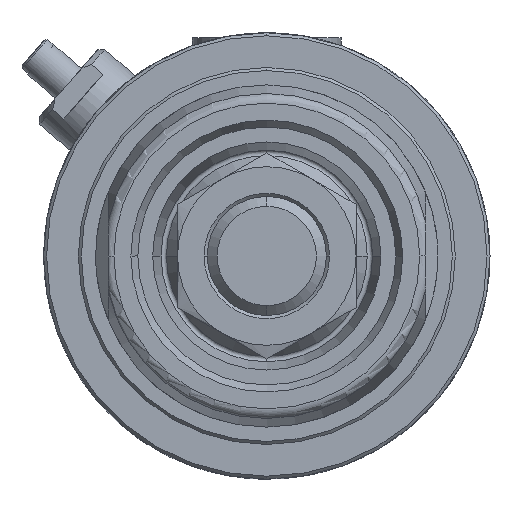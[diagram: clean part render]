
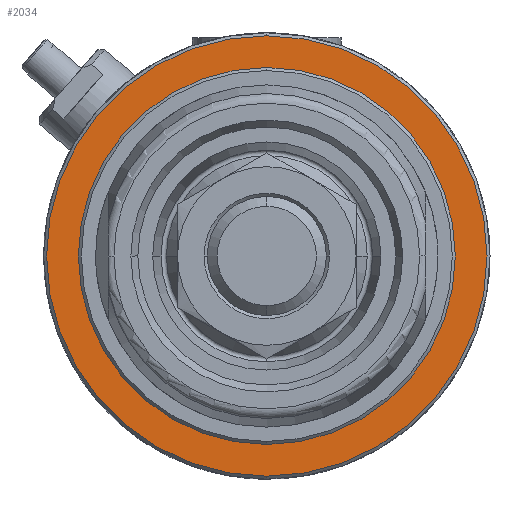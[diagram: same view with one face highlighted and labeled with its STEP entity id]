
A CAD part, front view. The second image highlights one B-rep face of the part: STEP entity #2034.
In plain terms, the highlighted planar face has unit normal (0, -1, 0).
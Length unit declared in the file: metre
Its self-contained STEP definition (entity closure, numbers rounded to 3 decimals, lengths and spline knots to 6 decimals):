
#2034=ADVANCED_FACE('',(#2658,#2659),#2660,.T.);
#2658=FACE_OUTER_BOUND('',#3864,.T.);
#2659=FACE_BOUND('',#3865,.T.);
#2660=PLANE('',#3866);
#3864=EDGE_LOOP('',(#5522,#5523));
#3865=EDGE_LOOP('',(#5524,#5525));
#3866=AXIS2_PLACEMENT_3D('',#5526,#5527,#5528);
#5522=ORIENTED_EDGE('',*,*,#9325,.T.);
#5523=ORIENTED_EDGE('',*,*,#9394,.T.);
#5524=ORIENTED_EDGE('',*,*,#9337,.F.);
#5525=ORIENTED_EDGE('',*,*,#9395,.F.);
#5526=CARTESIAN_POINT('',(0.,0.004,0.0225));
#5527=DIRECTION('',(0.,-1.0,0.));
#5528=DIRECTION('',(0.0,0.,-1.0));
#9325=EDGE_CURVE('',#10573,#10570,#10574,.T.);
#9337=EDGE_CURVE('',#10594,#10596,#10597,.T.);
#9394=EDGE_CURVE('',#10570,#10573,#10686,.T.);
#9395=EDGE_CURVE('',#10596,#10594,#10687,.T.);
#10570=VERTEX_POINT('',#12654);
#10573=VERTEX_POINT('',#12658);
#10574=CIRCLE('',#12659,0.0222);
#10594=VERTEX_POINT('',#12689);
#10596=VERTEX_POINT('',#12692);
#10597=CIRCLE('',#12693,0.019);
#10686=CIRCLE('',#12980,0.0222);
#10687=CIRCLE('',#12981,0.019);
#12654=CARTESIAN_POINT('',(0.,0.004,0.0222));
#12658=CARTESIAN_POINT('',(0.,0.004,-0.0222));
#12659=AXIS2_PLACEMENT_3D('',#15911,#15912,#15913);
#12689=CARTESIAN_POINT('',(0.,0.004,-0.019));
#12692=CARTESIAN_POINT('',(0.,0.004,0.019));
#12693=AXIS2_PLACEMENT_3D('',#15934,#15935,#15936);
#12980=AXIS2_PLACEMENT_3D('',#16013,#16014,#16015);
#12981=AXIS2_PLACEMENT_3D('',#16016,#16017,#16018);
#15911=CARTESIAN_POINT('',(0.,0.004,0.));
#15912=DIRECTION('',(0.,-1.0,0.));
#15913=DIRECTION('',(0.,0.,-1.0));
#15934=CARTESIAN_POINT('',(0.,0.004,0.));
#15935=DIRECTION('',(0.,-1.0,0.));
#15936=DIRECTION('',(0.,0.,-1.0));
#16013=CARTESIAN_POINT('',(0.,0.004,0.));
#16014=DIRECTION('',(0.,-1.0,0.));
#16015=DIRECTION('',(0.,0.,-1.0));
#16016=CARTESIAN_POINT('',(0.,0.004,0.));
#16017=DIRECTION('',(0.,-1.0,0.));
#16018=DIRECTION('',(0.,0.,-1.0));
